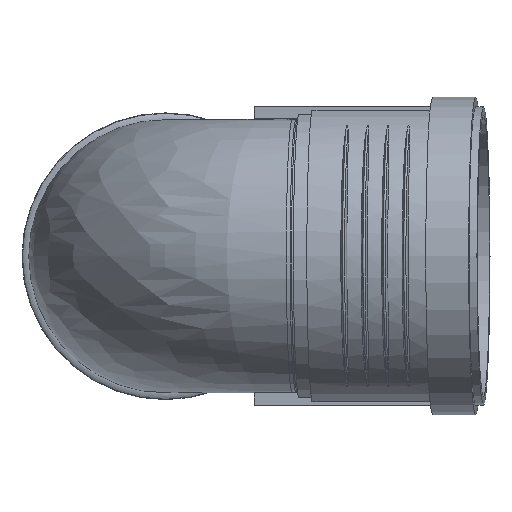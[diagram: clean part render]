
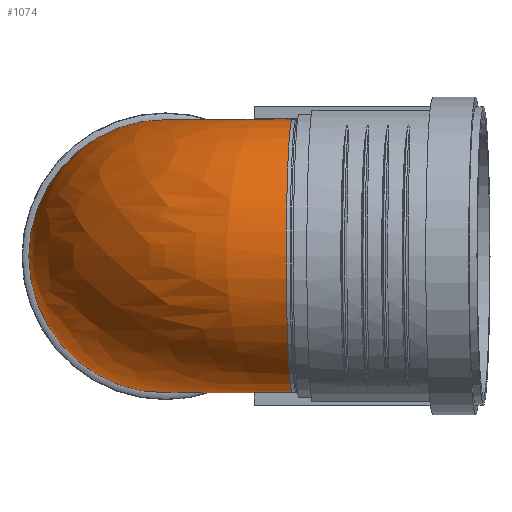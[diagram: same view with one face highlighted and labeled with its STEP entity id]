
A CAD part, top view. The second image highlights one B-rep face of the part: STEP entity #1074.
In plain terms, the highlighted free-form (B-spline) face has degree [2, 2] with [9, 9] control points.
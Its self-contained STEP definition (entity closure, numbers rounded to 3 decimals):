
#142=(
BOUNDED_SURFACE()
B_SPLINE_SURFACE(2,2,((#1588,#1589,#1590,#1591,#1592,#1593,#1594,#1595,
#1596),(#1597,#1598,#1599,#1600,#1601,#1602,#1603,#1604,#1605),(#1606,#1607,
#1608,#1609,#1610,#1611,#1612,#1613,#1614),(#1615,#1616,#1617,#1618,#1619,
#1620,#1621,#1622,#1623),(#1624,#1625,#1626,#1627,#1628,#1629,#1630,#1631,
#1632),(#1633,#1634,#1635,#1636,#1637,#1638,#1639,#1640,#1641),(#1642,#1643,
#1644,#1645,#1646,#1647,#1648,#1649,#1650),(#1651,#1652,#1653,#1654,#1655,
#1656,#1657,#1658,#1659),(#1660,#1661,#1662,#1663,#1664,#1665,#1666,#1667,
#1668)),.UNSPECIFIED.,.T.,.T.,.F.)
B_SPLINE_SURFACE_WITH_KNOTS((3,2,2,2,3),(3,2,2,2,3),(-3.142,
-1.571,0.,1.571,3.142),(-3.142,
-1.571,0.,1.571,3.142),.UNSPECIFIED.)
GEOMETRIC_REPRESENTATION_ITEM()
RATIONAL_B_SPLINE_SURFACE(((1.,0.707,1.,0.707,1.,
0.707,1.,0.707,1.),(0.707,0.5,0.707,
0.5,0.707,0.5,0.707,0.5,0.707),(1.,
0.707,1.,0.707,1.,0.707,1.,0.707,
1.),(0.707,0.5,0.707,0.5,0.707,0.5,
0.707,0.5,0.707),(1.,0.707,1.,0.707,
1.,0.707,1.,0.707,1.),(0.707,0.5,0.707,
0.5,0.707,0.5,0.707,0.5,0.707),(1.,
0.707,1.,0.707,1.,0.707,1.,0.707,
1.),(0.707,0.5,0.707,0.5,0.707,0.5,
0.707,0.5,0.707),(1.,0.707,1.,0.707,
1.,0.707,1.,0.707,1.)))
REPRESENTATION_ITEM($)
SURFACE()
);
#260=FACE_OUTER_BOUND($,#331,.T.);
#331=EDGE_LOOP($,(#734,#735));
#425=CIRCLE($,#1158,55.1);
#426=CIRCLE($,#1159,55.1);
#480=VERTEX_POINT($,#1586);
#586=EDGE_CURVE($,#480,#480,#425,.T.);
#587=EDGE_CURVE($,#480,#480,#426,.T.);
#734=ORIENTED_EDGE($,*,*,#586,.T.);
#735=ORIENTED_EDGE($,*,*,#587,.F.);
#1074=ADVANCED_FACE($,(#260),#142,.F.);
#1158=AXIS2_PLACEMENT_3D($,#1587,#1307,#1308);
#1159=AXIS2_PLACEMENT_3D($,#1669,#1309,#1310);
#1307=DIRECTION('center_axis',(-0.999,0.,-0.044));
#1308=DIRECTION('ref_axis',(-0.044,0.,0.999));
#1309=DIRECTION('center_axis',(0.,0.,-1.));
#1310=DIRECTION('ref_axis',(-1.,0.,0.));
#1586=CARTESIAN_POINT('',(55.1,0.,74.51));
#1587=CARTESIAN_POINT('Origin',(52.697,0.,129.558));
#1588=CARTESIAN_POINT('Ctrl Pts',(55.1,0.,74.51));
#1589=CARTESIAN_POINT('Ctrl Pts',(55.1,0.,74.51));
#1590=CARTESIAN_POINT('Ctrl Pts',(55.1,0.,74.51));
#1591=CARTESIAN_POINT('Ctrl Pts',(55.1,0.,74.51));
#1592=CARTESIAN_POINT('Ctrl Pts',(55.1,0.,74.51));
#1593=CARTESIAN_POINT('Ctrl Pts',(55.1,0.,74.51));
#1594=CARTESIAN_POINT('Ctrl Pts',(55.1,0.,74.51));
#1595=CARTESIAN_POINT('Ctrl Pts',(55.1,0.,74.51));
#1596=CARTESIAN_POINT('Ctrl Pts',(55.1,0.,74.51));
#1597=CARTESIAN_POINT('Ctrl Pts',(55.1,-55.1,74.51));
#1598=CARTESIAN_POINT('Ctrl Pts',(55.1,-55.1,74.51));
#1599=CARTESIAN_POINT('Ctrl Pts',(55.1,-55.1,74.51));
#1600=CARTESIAN_POINT('Ctrl Pts',(55.1,-55.1,74.51));
#1601=CARTESIAN_POINT('Ctrl Pts',(55.1,-55.1,74.51));
#1602=CARTESIAN_POINT('Ctrl Pts',(55.1,-55.1,74.51));
#1603=CARTESIAN_POINT('Ctrl Pts',(55.1,-55.1,74.51));
#1604=CARTESIAN_POINT('Ctrl Pts',(55.1,-55.1,74.51));
#1605=CARTESIAN_POINT('Ctrl Pts',(55.1,-55.1,74.51));
#1606=CARTESIAN_POINT('Ctrl Pts',(55.1,-55.1,19.41));
#1607=CARTESIAN_POINT('Ctrl Pts',(0.,-55.1,19.41));
#1608=CARTESIAN_POINT('Ctrl Pts',(0.,-55.1,74.51));
#1609=CARTESIAN_POINT('Ctrl Pts',(0.,-55.1,129.61));
#1610=CARTESIAN_POINT('Ctrl Pts',(55.1,-55.1,129.61));
#1611=CARTESIAN_POINT('Ctrl Pts',(110.2,-55.1,129.61));
#1612=CARTESIAN_POINT('Ctrl Pts',(110.2,-55.1,74.51));
#1613=CARTESIAN_POINT('Ctrl Pts',(110.2,-55.1,19.41));
#1614=CARTESIAN_POINT('Ctrl Pts',(55.1,-55.1,19.41));
#1615=CARTESIAN_POINT('Ctrl Pts',(55.1,-55.1,-35.69));
#1616=CARTESIAN_POINT('Ctrl Pts',(-55.1,-55.1,-35.69));
#1617=CARTESIAN_POINT('Ctrl Pts',(-55.1,-55.1,74.51));
#1618=CARTESIAN_POINT('Ctrl Pts',(-55.1,-55.1,184.71));
#1619=CARTESIAN_POINT('Ctrl Pts',(55.1,-55.1,184.71));
#1620=CARTESIAN_POINT('Ctrl Pts',(165.3,-55.1,184.71));
#1621=CARTESIAN_POINT('Ctrl Pts',(165.3,-55.1,74.51));
#1622=CARTESIAN_POINT('Ctrl Pts',(165.3,-55.1,-35.69));
#1623=CARTESIAN_POINT('Ctrl Pts',(55.1,-55.1,-35.69));
#1624=CARTESIAN_POINT('Ctrl Pts',(55.1,0.,-35.69));
#1625=CARTESIAN_POINT('Ctrl Pts',(-55.1,0.,-35.69));
#1626=CARTESIAN_POINT('Ctrl Pts',(-55.1,0.,74.51));
#1627=CARTESIAN_POINT('Ctrl Pts',(-55.1,0.,184.71));
#1628=CARTESIAN_POINT('Ctrl Pts',(55.1,0.,184.71));
#1629=CARTESIAN_POINT('Ctrl Pts',(165.3,0.,184.71));
#1630=CARTESIAN_POINT('Ctrl Pts',(165.3,0.,74.51));
#1631=CARTESIAN_POINT('Ctrl Pts',(165.3,0.,-35.69));
#1632=CARTESIAN_POINT('Ctrl Pts',(55.1,0.,-35.69));
#1633=CARTESIAN_POINT('Ctrl Pts',(55.1,55.1,-35.69));
#1634=CARTESIAN_POINT('Ctrl Pts',(-55.1,55.1,-35.69));
#1635=CARTESIAN_POINT('Ctrl Pts',(-55.1,55.1,74.51));
#1636=CARTESIAN_POINT('Ctrl Pts',(-55.1,55.1,184.71));
#1637=CARTESIAN_POINT('Ctrl Pts',(55.1,55.1,184.71));
#1638=CARTESIAN_POINT('Ctrl Pts',(165.3,55.1,184.71));
#1639=CARTESIAN_POINT('Ctrl Pts',(165.3,55.1,74.51));
#1640=CARTESIAN_POINT('Ctrl Pts',(165.3,55.1,-35.69));
#1641=CARTESIAN_POINT('Ctrl Pts',(55.1,55.1,-35.69));
#1642=CARTESIAN_POINT('Ctrl Pts',(55.1,55.1,19.41));
#1643=CARTESIAN_POINT('Ctrl Pts',(0.,55.1,19.41));
#1644=CARTESIAN_POINT('Ctrl Pts',(0.,55.1,74.51));
#1645=CARTESIAN_POINT('Ctrl Pts',(0.,55.1,129.61));
#1646=CARTESIAN_POINT('Ctrl Pts',(55.1,55.1,129.61));
#1647=CARTESIAN_POINT('Ctrl Pts',(110.2,55.1,129.61));
#1648=CARTESIAN_POINT('Ctrl Pts',(110.2,55.1,74.51));
#1649=CARTESIAN_POINT('Ctrl Pts',(110.2,55.1,19.41));
#1650=CARTESIAN_POINT('Ctrl Pts',(55.1,55.1,19.41));
#1651=CARTESIAN_POINT('Ctrl Pts',(55.1,55.1,74.51));
#1652=CARTESIAN_POINT('Ctrl Pts',(55.1,55.1,74.51));
#1653=CARTESIAN_POINT('Ctrl Pts',(55.1,55.1,74.51));
#1654=CARTESIAN_POINT('Ctrl Pts',(55.1,55.1,74.51));
#1655=CARTESIAN_POINT('Ctrl Pts',(55.1,55.1,74.51));
#1656=CARTESIAN_POINT('Ctrl Pts',(55.1,55.1,74.51));
#1657=CARTESIAN_POINT('Ctrl Pts',(55.1,55.1,74.51));
#1658=CARTESIAN_POINT('Ctrl Pts',(55.1,55.1,74.51));
#1659=CARTESIAN_POINT('Ctrl Pts',(55.1,55.1,74.51));
#1660=CARTESIAN_POINT('Ctrl Pts',(55.1,0.,74.51));
#1661=CARTESIAN_POINT('Ctrl Pts',(55.1,0.,74.51));
#1662=CARTESIAN_POINT('Ctrl Pts',(55.1,0.,74.51));
#1663=CARTESIAN_POINT('Ctrl Pts',(55.1,0.,74.51));
#1664=CARTESIAN_POINT('Ctrl Pts',(55.1,0.,74.51));
#1665=CARTESIAN_POINT('Ctrl Pts',(55.1,0.,74.51));
#1666=CARTESIAN_POINT('Ctrl Pts',(55.1,0.,74.51));
#1667=CARTESIAN_POINT('Ctrl Pts',(55.1,0.,74.51));
#1668=CARTESIAN_POINT('Ctrl Pts',(55.1,0.,74.51));
#1669=CARTESIAN_POINT('Origin',(0.,0.,74.51));
